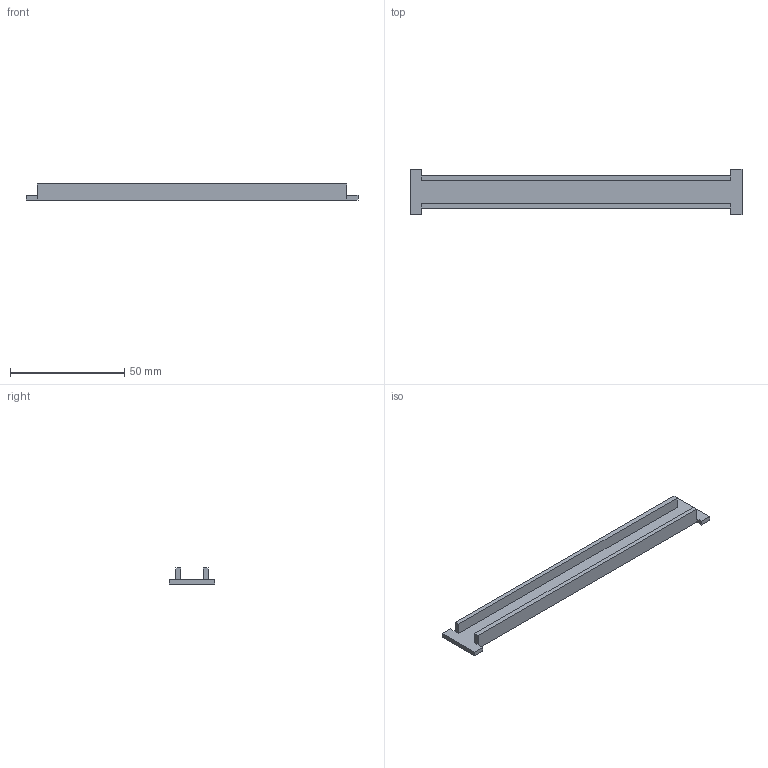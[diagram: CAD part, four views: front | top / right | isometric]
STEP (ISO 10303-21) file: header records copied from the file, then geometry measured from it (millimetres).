
FILE_DESCRIPTION (( 'STEP AP203' ), '1' );
FILE_NAME ('儂迮旋1嘐隅.STEP', '2025-08-22T12:47:53', ( '' ), ( '' ), 'SwSTEP 2.0', 'SolidWorks 2025', '' );
FILE_SCHEMA (( 'CONFIG_CONTROL_DESIGN' ));
Length unit declared in the file: millimetre
Products named in the file (1): 机械臂1固定
Bounding box: 145 x 20 x 7 mm (x, y, z)
Volume: 6880 mm3; surface area: 7604 mm2
Topology: 1 solids, 1 shells, 22 faces, 56 edges, 36 vertices
Faces by surface type: plane 22
Entity records: 725 total; most frequent: CARTESIAN_POINT 115, ORIENTED_EDGE 112, DIRECTION 102, VECTOR 56, EDGE_CURVE 56, LINE 56, VERTEX_POINT 36, AXIS2_PLACEMENT_3D 23
